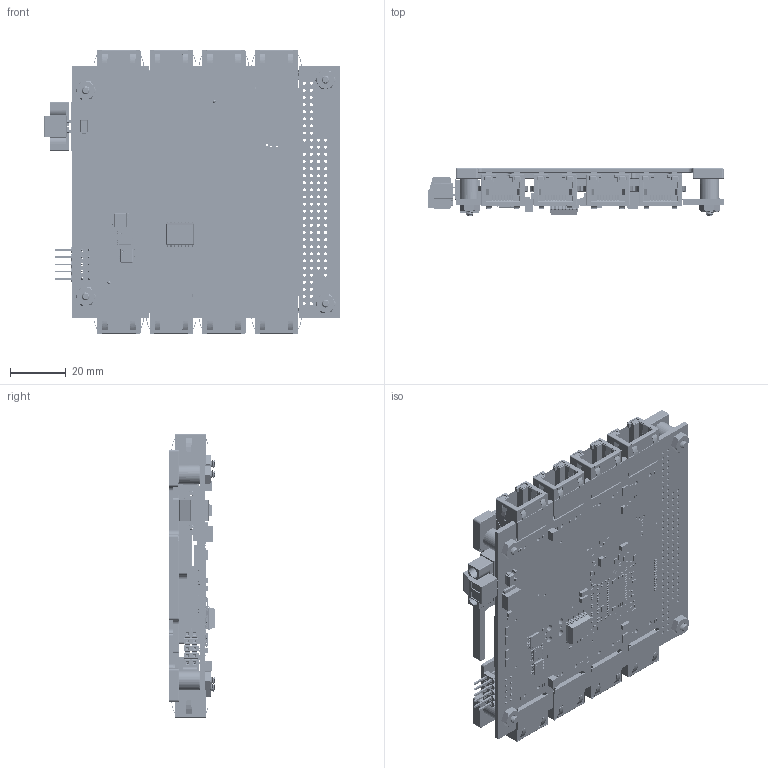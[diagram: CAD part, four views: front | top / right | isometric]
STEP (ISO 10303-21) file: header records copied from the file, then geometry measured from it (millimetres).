
FILE_DESCRIPTION (( 'STEP AP214' ), '1' );
FILE_NAME ('Assembly(0.01) Conduction Cooled XDG016.STEP', '2016-03-31T18:43:33', ( '' ), ( '' ), 'SwSTEP 2.0', 'SolidWorks 2015', '' );
FILE_SCHEMA (( 'AUTOMOTIVE_DESIGN' ));
Length unit declared in the file: inch
Products named in the file (8): 21464 Loctite 222 Threadlocker; GR45A-0H-50GY Thermal Pad, 1.00X1.00_50GR-ae; 92146A530 Lockwasher, #4, Split, SS_92146A530; 91841A005 Nut, 4-40, SS_91841A005; 91772A111 Screw, 4-40X.563 PPHMS, SS_91772A111; XDG004_3D_MODEL; CTIA-00575 REV 0.01  Heat Plate - Top, Conduction Cooled XDG; Assembly(0.01) Conduction Cooled XDG016
Assembly tree (15 placements, depth 2):
  21464 Loctite 222 Threadlocker
  Assembly(0.01) Conduction Cooled XDG016
    CTIA-00575 REV 0.01  Heat Plate - Top, Conduction Cooled XDG
    XDG004_3D_MODEL
    91772A111 Screw, 4-40X.563 PPHMS, SS_91772A111  x4
    91841A005 Nut, 4-40, SS_91841A005  x4
    92146A530 Lockwasher, #4, Split, SS_92146A530  x4
    GR45A-0H-50GY Thermal Pad, 1.00X1.00_50GR-ae
Bounding box: 105.67 x 16.7 x 101.25 mm (x, y, z)
Volume: 27865.7 mm3; surface area: 73854.6 mm2
Topology: 14 solids, 957 shells, 7841 faces, 30119 edges, 22473 vertices
Faces by surface type: plane 5638, cylinder 1738, cone 261, bspline 180, torus 16, sphere 8
Entity records: 380803 total; most frequent: CARTESIAN_POINT 66113, DIRECTION 45641, ORIENTED_EDGE 40267, EDGE_CURVE 28307, LINE 23229, VECTOR 23229, VERTEX_POINT 21316, AXIS2_PLACEMENT_3D 11206
